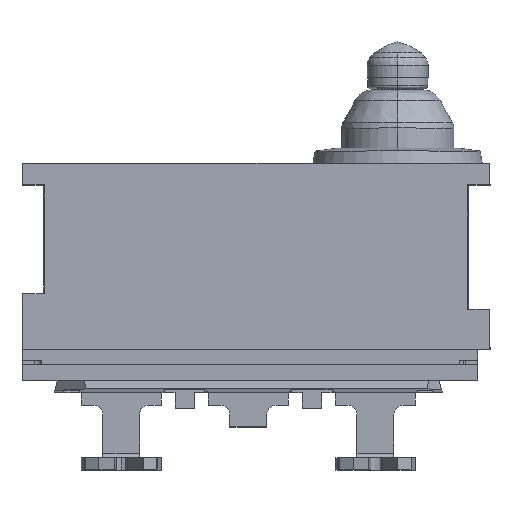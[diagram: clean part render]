
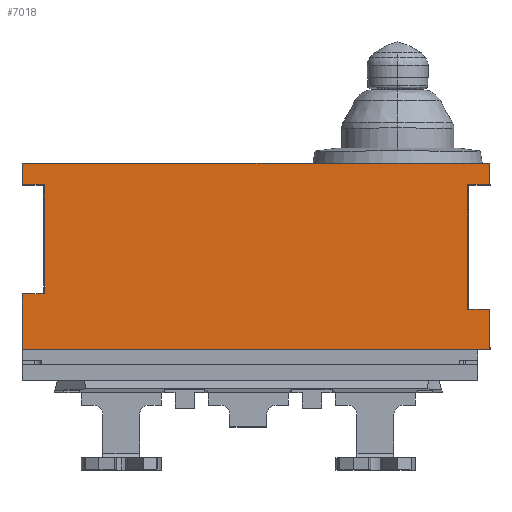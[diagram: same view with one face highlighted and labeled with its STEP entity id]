
A CAD part, top view. The second image highlights one B-rep face of the part: STEP entity #7018.
In plain terms, the highlighted planar face has unit normal (0, 0, 1).
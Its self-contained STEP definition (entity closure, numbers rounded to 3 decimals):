
#31 = CARTESIAN_POINT ( 'NONE',  ( 7.78, 6.25, 0. ) ) ;
#646 = ORIENTED_EDGE ( 'NONE', *, *, #8491, .F. ) ;
#866 = CARTESIAN_POINT ( 'NONE',  ( -7.38, 6.347, 0. ) ) ;
#954 = DIRECTION ( 'NONE',  ( -1., 0., 0. ) ) ;
#980 = EDGE_CURVE ( 'NONE', #8327, #3818, #9707, .T. ) ;
#1232 = CARTESIAN_POINT ( 'NONE',  ( -7.4, 6.347, 0. ) ) ;
#1252 = AXIS2_PLACEMENT_3D ( 'NONE', #10896, #10894, #10885 ) ;
#1350 = VERTEX_POINT ( 'NONE', #7729 ) ;
#1870 = VERTEX_POINT ( 'NONE', #11963 ) ;
#1951 = EDGE_CURVE ( 'NONE', #4110, #11964, #12330, .T. ) ;
#2209 = VECTOR ( 'NONE', #9015, 1000. ) ;
#2225 = LINE ( 'NONE', #8688, #2209 ) ;
#2435 = VECTOR ( 'NONE', #12297, 1000. ) ;
#2466 = LINE ( 'NONE', #31, #2435 ) ;
#2469 = EDGE_CURVE ( 'NONE', #8371, #11602, #9861, .T. ) ;
#2578 = EDGE_CURVE ( 'NONE', #5622, #1870, #10117, .T. ) ;
#2666 = EDGE_CURVE ( 'NONE', #4622, #10307, #9309, .T. ) ;
#2859 = EDGE_CURVE ( 'NONE', #10307, #11964, #6591, .T. ) ;
#2899 = EDGE_CURVE ( 'NONE', #4110, #3818, #8412, .T. ) ;
#3238 = CARTESIAN_POINT ( 'NONE',  ( 7.8, 2.307, 0. ) ) ;
#3324 = ORIENTED_EDGE ( 'NONE', *, *, #2899, .F. ) ;
#3530 = CARTESIAN_POINT ( 'NONE',  ( -7.38, 6.25, 0. ) ) ;
#3818 = VERTEX_POINT ( 'NONE', #11519 ) ;
#4110 = VERTEX_POINT ( 'NONE', #7302 ) ;
#4195 = DIRECTION ( 'NONE',  ( 0., 1., 0. ) ) ;
#4254 = CARTESIAN_POINT ( 'NONE',  ( -7.4, 2.807, 0. ) ) ;
#4622 = VERTEX_POINT ( 'NONE', #12650 ) ;
#4656 = CARTESIAN_POINT ( 'NONE',  ( -7.4, 1., 0. ) ) ;
#4865 = EDGE_CURVE ( 'NONE', #8327, #8371, #13059, .T. ) ;
#4921 = DIRECTION ( 'NONE',  ( -1., 0., 0. ) ) ;
#5363 = EDGE_CURVE ( 'NONE', #5622, #10694, #11906, .T. ) ;
#5561 = DIRECTION ( 'NONE',  ( -1., 0., 0. ) ) ;
#5622 = VERTEX_POINT ( 'NONE', #12797 ) ;
#6039 = EDGE_CURVE ( 'NONE', #1350, #1870, #9985, .T. ) ;
#6118 = CARTESIAN_POINT ( 'NONE',  ( 7.78, 7.05, 0. ) ) ;
#6215 = ORIENTED_EDGE ( 'NONE', *, *, #8335, .F. ) ;
#6268 = EDGE_LOOP ( 'NONE', ( #3324, #9928, #7765, #12535, #646, #12492, #11774, #9044, #6215, #8970, #8823, #10367 ) ) ;
#6507 = VECTOR ( 'NONE', #6786, 1000. ) ;
#6591 = LINE ( 'NONE', #7210, #6507 ) ;
#6786 = DIRECTION ( 'NONE',  ( 0., 1., 0. ) ) ;
#6813 = FACE_OUTER_BOUND ( 'NONE', #6268, .T. ) ;
#7018 = ADVANCED_FACE ( 'NONE', ( #6813 ), #10937, .F. ) ;
#7210 = CARTESIAN_POINT ( 'NONE',  ( -7.38, 6.25, 0. ) ) ;
#7302 = CARTESIAN_POINT ( 'NONE',  ( -6.677, 2.807, 0. ) ) ;
#7334 = CARTESIAN_POINT ( 'NONE',  ( 7.8, 6.348, 0. ) ) ;
#7729 = CARTESIAN_POINT ( 'NONE',  ( 7.78, 2.307, 0. ) ) ;
#7765 = ORIENTED_EDGE ( 'NONE', *, *, #2859, .F. ) ;
#7767 = DIRECTION ( 'NONE',  ( 1., 0., 0. ) ) ;
#7903 = DIRECTION ( 'NONE',  ( 0., -1., 0. ) ) ;
#8033 = VECTOR ( 'NONE', #11210, 1000. ) ;
#8223 = CARTESIAN_POINT ( 'NONE',  ( -7.38, 1., 0. ) ) ;
#8327 = VERTEX_POINT ( 'NONE', #866 ) ;
#8335 = EDGE_CURVE ( 'NONE', #11602, #10694, #2466, .T. ) ;
#8371 = VERTEX_POINT ( 'NONE', #11586 ) ;
#8412 = LINE ( 'NONE', #9678, #8433 ) ;
#8433 = VECTOR ( 'NONE', #9567, 1000. ) ;
#8491 = EDGE_CURVE ( 'NONE', #1350, #4622, #2225, .T. ) ;
#8688 = CARTESIAN_POINT ( 'NONE',  ( 7.78, 6.25, 0. ) ) ;
#8823 = ORIENTED_EDGE ( 'NONE', *, *, #4865, .F. ) ;
#8970 = ORIENTED_EDGE ( 'NONE', *, *, #2469, .F. ) ;
#9015 = DIRECTION ( 'NONE',  ( 0., -1., 0. ) ) ;
#9044 = ORIENTED_EDGE ( 'NONE', *, *, #5363, .T. ) ;
#9309 = LINE ( 'NONE', #4656, #9372 ) ;
#9372 = VECTOR ( 'NONE', #4921, 1000. ) ;
#9539 = VECTOR ( 'NONE', #7903, 1000. ) ;
#9567 = DIRECTION ( 'NONE',  ( 0., 1., 0. ) ) ;
#9678 = CARTESIAN_POINT ( 'NONE',  ( -6.677, 6.25, 0. ) ) ;
#9707 = LINE ( 'NONE', #1232, #8033 ) ;
#9734 = DIRECTION ( 'NONE',  ( 1., 0., 0. ) ) ;
#9861 = LINE ( 'NONE', #9932, #9947 ) ;
#9928 = ORIENTED_EDGE ( 'NONE', *, *, #1951, .T. ) ;
#9932 = CARTESIAN_POINT ( 'NONE',  ( -7.4, 7.05, 0. ) ) ;
#9947 = VECTOR ( 'NONE', #9734, 1000. ) ;
#9985 = LINE ( 'NONE', #3238, #10048 ) ;
#10048 = VECTOR ( 'NONE', #954, 1000. ) ;
#10117 = LINE ( 'NONE', #10783, #9539 ) ;
#10307 = VERTEX_POINT ( 'NONE', #8223 ) ;
#10367 = ORIENTED_EDGE ( 'NONE', *, *, #980, .T. ) ;
#10610 = CARTESIAN_POINT ( 'NONE',  ( 7.78, 6.348, 0. ) ) ;
#10694 = VERTEX_POINT ( 'NONE', #10610 ) ;
#10783 = CARTESIAN_POINT ( 'NONE',  ( 7.078, 6.25, 0. ) ) ;
#10885 = DIRECTION ( 'NONE',  ( -1., 0., 0. ) ) ;
#10894 = DIRECTION ( 'NONE',  ( 0., 0., -1. ) ) ;
#10896 = CARTESIAN_POINT ( 'NONE',  ( -7.4, 6.25, 0. ) ) ;
#10937 = PLANE ( 'NONE',  #1252 ) ;
#11210 = DIRECTION ( 'NONE',  ( 1., 0., 0. ) ) ;
#11519 = CARTESIAN_POINT ( 'NONE',  ( -6.677, 6.347, 0. ) ) ;
#11586 = CARTESIAN_POINT ( 'NONE',  ( -7.38, 7.05, 0. ) ) ;
#11602 = VERTEX_POINT ( 'NONE', #6118 ) ;
#11774 = ORIENTED_EDGE ( 'NONE', *, *, #2578, .F. ) ;
#11782 = VECTOR ( 'NONE', #7767, 1000. ) ;
#11906 = LINE ( 'NONE', #7334, #11782 ) ;
#11963 = CARTESIAN_POINT ( 'NONE',  ( 7.078, 2.307, 0. ) ) ;
#11964 = VERTEX_POINT ( 'NONE', #12553 ) ;
#12297 = DIRECTION ( 'NONE',  ( 0., -1., 0. ) ) ;
#12307 = VECTOR ( 'NONE', #5561, 1000. ) ;
#12330 = LINE ( 'NONE', #4254, #12307 ) ;
#12492 = ORIENTED_EDGE ( 'NONE', *, *, #6039, .T. ) ;
#12535 = ORIENTED_EDGE ( 'NONE', *, *, #2666, .F. ) ;
#12553 = CARTESIAN_POINT ( 'NONE',  ( -7.38, 2.807, 0. ) ) ;
#12650 = CARTESIAN_POINT ( 'NONE',  ( 7.78, 1., 0. ) ) ;
#12797 = CARTESIAN_POINT ( 'NONE',  ( 7.078, 6.348, 0. ) ) ;
#13026 = VECTOR ( 'NONE', #4195, 1000. ) ;
#13059 = LINE ( 'NONE', #3530, #13026 ) ;
